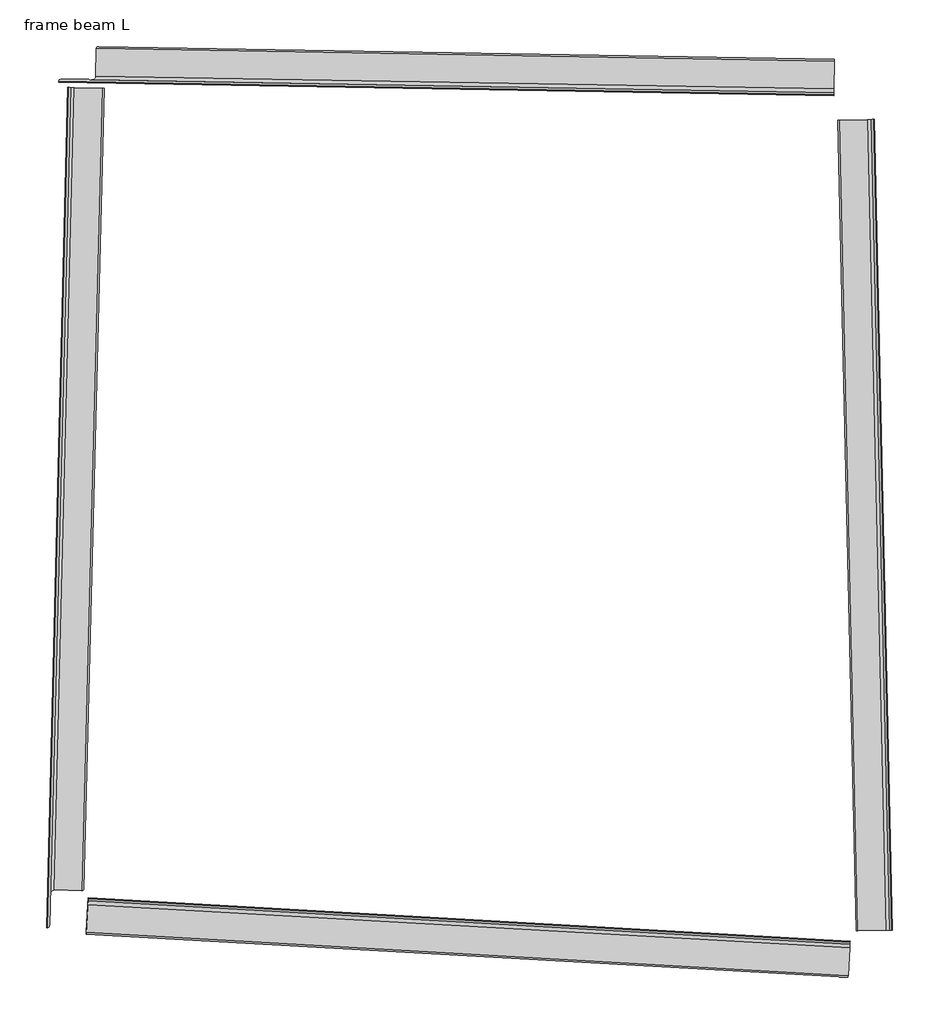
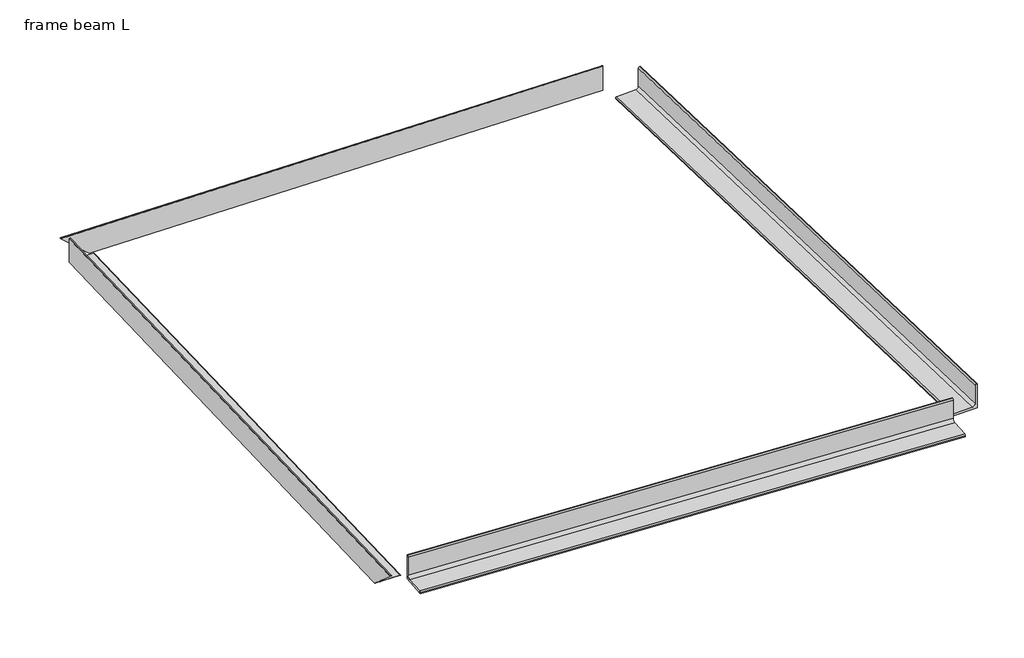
# One storey: 4 beams.
"""IFC4 building model written with IfcOpenShell, lengths in millimetres."""

from ifc_helpers import new_model, si_unit, frame, origin, place, context, project, spatial, polyline, circle_curve, ellipse_curve, transform, mapped, element, save
from ifc_brep_helpers import plane_surface, cylinder_surface, revolved_surface, advanced_brep
from components import l120x10_26b6b7ca, l120x10_cbca3082

model = new_model("IFC4")

# Units and contexts
model_context = context("Model", 3, world=origin())
ifc_project = project(units=[si_unit("LENGTHUNIT", "METRE", prefix="MILLI")], contexts=[model_context])

# Site, building, storey
site = spatial("IfcSite", under=ifc_project)
building = spatial("IfcBuilding", under=site)
storey = spatial("IfcBuildingStorey", under=building, Name="frame beam L", Elevation=5725.900799)

# Beams
placement = place(None, origin())
element("IfcBeam", 1, ObjectType="L ali uguali : L120x10", at=placement, inside=storey, context=model_context, shape_type="AdvancedBrep", body=[
    advanced_brep(
    [(2348.1678974, 2107.3671471, 5645.1164619), (2350.7639089, 2257.3446811, 5645.1164619), (2350.763753, 2257.3446838, 5649.1164619), (2350.6249873, 2249.3458874, 5657.1164619), (2348.6520187, 2135.3629615, 5657.1164619), (2348.3744873, 2119.3653687, 5673.1164619), (2348.3700453, 2119.3654456, 5787.1164618), (2348.2312797, 2111.3666491, 5795.1164618), (2348.1620527, 2107.3672482, 5795.1164618), (-680.4811256, 2159.7910485, 5644.9984152), (-677.7286427, 2309.7658742, 5644.9984213), (-691.1807518, 2301.9975229, 5656.9979023), (-693.2726388, 2188.0166554, 5656.9978977), (-711.3066503, 2172.3264154, 5672.9972056), (-837.7070954, 2174.5143231, 5786.992279), (-846.7975007, 2162.6698744, 5794.9919328), (-682.163746, 2309.8426429, 5648.9982484), (-846.7241012, 2166.6692031, 5794.991933)],
    [
        (0, 1),
        (1, 2),
        (2, 3, circle_curve(frame((2350.6252991, 2249.345882, 5649.1164619), z_axis=(0.9998502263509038, -0.01730674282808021, 3.897087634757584e-05), x_axis=(0.01730674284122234, 0.9998502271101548, 0.0)), 8.0)),
        (3, 4),
        (4, 5, circle_curve(frame((2348.6513952, 2135.3629723, 5673.1164619), z_axis=(-0.9998502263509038, 0.01730674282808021, -3.897087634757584e-05), x_axis=(0.01730674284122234, 0.9998502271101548, 0.0)), 16.0)),
        (5, 6),
        (6, 7, circle_curve(frame((2348.2315914, 2111.3666437, 5787.1164618), z_axis=(0.9998502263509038, -0.01730674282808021, 3.897087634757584e-05), x_axis=(0.01730674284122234, 0.9998502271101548, 0.0)), 8.0)),
        (7, 8),
        (8, 0),
        (0, 9),
        (9, 10),
        (10, 1),
        (3, 11),
        (11, 12),
        (12, 4),
        (12, 13, ellipse_curve(frame((-711.0130521, 2188.3237302, 5672.9972063), z_axis=(-0.6695582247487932, 0.012288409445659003, -0.7426579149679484), x_axis=(-0.7425579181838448, 0.012223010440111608, 0.6696703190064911)), 23.8913104, 16.0)),
        (13, 5),
        (13, 14),
        (14, 6),
        (8, 15),
        (15, 9),
        (10, 16),
        (16, 2),
        (16, 11, ellipse_curve(frame((-682.3105451, 2301.8439855, 5648.9982481), z_axis=(0.6695582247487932, -0.012288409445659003, 0.7426579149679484), x_axis=(0.7425579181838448, -0.012223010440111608, -0.6696703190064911)), 11.9456552, 8.0)),
        (14, 17, ellipse_curve(frame((-837.8538945, 2166.5156657, 5786.9922787), z_axis=(0.6695582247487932, -0.012288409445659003, 0.7426579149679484), x_axis=(0.7425579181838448, -0.012223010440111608, -0.6696703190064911)), 11.9456552, 8.0)),
        (17, 7),
        (17, 15),
    ],
    [
        plane_surface(frame((2348.8793299, 2148.5610042, 5686.3164619), z_axis=(0.9998502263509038, -0.01730674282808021, 3.897087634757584e-05), x_axis=(-3.896503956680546e-05, 6.744589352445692e-07, 0.9999999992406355))),
        plane_surface(frame((2348.1678974, 2107.3671471, 5645.1164619), z_axis=(3.8965039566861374e-05, -6.744589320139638e-07, -0.9999999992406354), x_axis=(-0.9998502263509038, 0.01730674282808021, -3.897087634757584e-05))),
        plane_surface(frame((2350.6249873, 2249.3458874, 5657.1164619), z_axis=(-3.8965039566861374e-05, 6.744589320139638e-07, 0.9999999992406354), x_axis=(-0.9998502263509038, 0.01730674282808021, -3.897087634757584e-05))),
        revolved_surface(polyline([(-728.4759419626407, 2204.6283978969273, 5672.99651479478), (2348.928303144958, 2151.3605759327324, 5673.116461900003)]), (2348.6513952, 2135.3629723, 5673.1164619), (-0.9998502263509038, 0.01730674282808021, -3.897087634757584e-05)),
        plane_surface(frame((2348.3744873, 2119.3653687, 5673.1164619), z_axis=(0.01730674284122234, 0.9998502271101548, 0.0), x_axis=(-0.9998502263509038, 0.01730674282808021, -3.897087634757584e-05))),
        plane_surface(frame((2348.1620527, 2107.3672482, 5795.1164618), z_axis=(-0.01730674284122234, -0.9998502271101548, 0.0), x_axis=(-0.9998502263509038, 0.01730674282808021, -3.897087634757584e-05))),
        plane_surface(frame((2350.7639089, 2257.3446811, 5645.1164619), z_axis=(0.01730674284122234, 0.9998502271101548, 0.0), x_axis=(-0.9998502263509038, 0.01730674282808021, -3.897087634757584e-05))),
        cylinder_surface(frame((2350.6252991, 2249.345882, 5649.1164619), z_axis=(0.9998502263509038, -0.01730674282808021, 3.897087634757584e-05), x_axis=(0.01730674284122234, 0.9998502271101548, 0.0)), 8.0),
        cylinder_surface(frame((2348.2315914, 2111.3666437, 5787.1164618), z_axis=(0.9998502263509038, -0.01730674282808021, 3.897087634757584e-05), x_axis=(0.01730674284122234, 0.9998502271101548, 0.0)), 8.0),
        plane_surface(frame((2348.2312797, 2111.3666491, 5795.1164618), z_axis=(-3.8965039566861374e-05, 6.744589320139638e-07, 0.9999999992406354), x_axis=(-0.9998502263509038, 0.01730674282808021, -3.897087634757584e-05))),
        plane_surface(frame((-846.0856862, 2203.7931151, 5795.0306289), z_axis=(-0.6695582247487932, 0.012288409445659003, -0.7426579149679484), x_axis=(0.742759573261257, 0.01107734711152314, -0.6694665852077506))),
    ],
    [
        (0, [[1, 2, 3, 4, 5, 6, 7, 8, 9]]),
        (1, [[-1, 10, 11, 12]]),
        (2, [[-4, 13, 14, 15]]),
        (3, [[-5, -15, 16, 17]]),
        (4, [[-6, -17, 18, 19]]),
        (5, [[-9, 20, 21, -10]]),
        (6, [[-2, -12, 22, 23]]),
        (7, [[-3, -23, 24, -13]]),
        (8, [[-7, -19, 25, 26]]),
        (9, [[-8, -26, 27, -20]]),
        (10, [[-21, -27, -25, -18, -16, -14, -24, -22, -11]]),
    ],
),
])
element("IfcBeam", 2, ObjectType="L ali uguali : L120x10", at=placement, inside=storey, context=model_context, shape_type="AdvancedBrep", body=[
    advanced_brep(
    [(-809.8435867, 2140.9882508, 5645.1008602), (-809.8371937, 2141.242201, 5795.1006451), (-805.8384606, 2141.1415366, 5795.1006451), (-797.8413353, 2140.9266638, 5787.1006565), (-797.8461939, 2140.7336617, 5673.10082), (-781.8519433, 2140.303916, 5657.100843), (-667.888049, 2137.4349807, 5657.100843), (-659.8909237, 2137.2201079, 5649.1008544), (-659.8910941, 2137.2133359, 5645.1008602), (-742.7604426, -1154.6397595, 5650.6775118), (-892.7195107, -1151.1260489, 5650.6779543), (-865.0679307, -1165.3188601, 5662.7008215), (-751.0990389, -1167.9892802, 5662.7004852), (-881.5179371, -1182.9932892, 5678.7314684), (-884.7553411, -1311.5940161, 5792.9494914), (-896.9792528, -1320.3375317, 5800.9648266), (-742.8740357, -1159.1520657, 5654.6851617), (-892.9803443, -1320.4312307, 5800.9648148)],
    [
        (0, 1),
        (1, 2),
        (2, 3, circle_curve(frame((-805.8388015, 2141.1279926, 5787.1006565), z_axis=(0.025166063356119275, 0.9996818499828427, -0.0016935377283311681), x_axis=(0.9996832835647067, -0.025166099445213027, 0.0)), 8.0)),
        (3, 4),
        (4, 5, circle_curve(frame((-781.8512614, 2140.3310041, 5673.10082), z_axis=(-0.025166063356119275, -0.9996818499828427, 0.0016935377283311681), x_axis=(0.9996832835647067, -0.025166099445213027, 0.0)), 16.0)),
        (5, 6),
        (6, 7, circle_curve(frame((-667.8883899, 2137.4214367, 5649.1008544), z_axis=(0.025166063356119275, 0.9996818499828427, -0.0016935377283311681), x_axis=(0.9996832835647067, -0.025166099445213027, 0.0)), 8.0)),
        (7, 8),
        (8, 0),
        (9, 10),
        (10, 0),
        (8, 9),
        (11, 12),
        (12, 6),
        (5, 11),
        (13, 11, ellipse_curve(frame((-865.5223032, -1183.368085, 5678.7314212), z_axis=(-0.015554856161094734, -0.6637600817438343, -0.7477837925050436), x_axis=(0.01983990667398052, 0.7475221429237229, -0.6639405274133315)), 24.1446034, 16.0)),
        (4, 13),
        (14, 13),
        (3, 14),
        (10, 15),
        (15, 1),
        (16, 9),
        (7, 16),
        (12, 16, ellipse_curve(frame((-750.8718527, -1158.9646678, 5654.6851853), z_axis=(0.015554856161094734, 0.6637600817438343, 0.7477837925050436), x_axis=(-0.01983990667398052, -0.7475221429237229, 0.6639405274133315)), 12.0723017, 8.0)),
        (17, 14, ellipse_curve(frame((-892.7531581, -1311.4066182, 5792.949515), z_axis=(0.015554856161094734, 0.6637600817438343, 0.7477837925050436), x_axis=(-0.01983990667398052, -0.7475221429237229, 0.6639405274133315)), 12.0723017, 8.0)),
        (2, 17),
        (15, 17),
    ],
    [
        plane_surface(frame((-768.6548794, 2140.0211592, 5686.3008011), z_axis=(0.025166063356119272, 0.9996818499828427, -0.001693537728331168), x_axis=(4.261973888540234e-05, 0.001693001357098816, 0.9999985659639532))),
        plane_surface(frame((-894.7413014, -1231.4384701, 5650.8140097), z_axis=(-4.261973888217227e-05, -0.0016930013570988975, -0.9999985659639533), x_axis=(0.025166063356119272, 0.9996818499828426, -0.001693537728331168))),
        plane_surface(frame((-752.7857637, -1234.9917402, 5662.8139925), z_axis=(4.261973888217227e-05, 0.0016930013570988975, 0.9999985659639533), x_axis=(0.025166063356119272, 0.9996818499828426, -0.001693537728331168))),
        revolved_surface(polyline([(-765.8563288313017, 2139.9283465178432, 5673.100819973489), (-849.9824255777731, -1201.8470768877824, 5678.762043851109)]), (-866.7489761, -1232.0957168, 5678.8139695), (0.02516606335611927, 0.9996818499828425, -0.0016935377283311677)),
        plane_surface(frame((-882.7439086, -1231.6930593, 5678.8139695), z_axis=(0.9996832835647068, -0.025166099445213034, 0.0), x_axis=(0.025166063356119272, 0.9996818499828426, -0.001693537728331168))),
        plane_surface(frame((-894.7349084, -1231.1845199, 5800.8137946), z_axis=(-0.9996832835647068, 0.025166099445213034, 0.0), x_axis=(0.025166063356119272, 0.9996818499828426, -0.001693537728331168))),
        plane_surface(frame((-744.7888089, -1235.213385, 5650.8140097), z_axis=(0.9996832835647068, -0.025166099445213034, 0.0), x_axis=(0.025166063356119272, 0.9996818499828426, -0.001693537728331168))),
        cylinder_surface(frame((-752.7861047, -1235.0052842, 5654.814004), z_axis=(-0.02516606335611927, -0.9996818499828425, 0.0016935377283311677), x_axis=(0.9996832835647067, -0.025166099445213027, 0.0)), 8.0),
        cylinder_surface(frame((-890.7365163, -1231.2987283, 5792.8138061), z_axis=(-0.02516606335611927, -0.9996818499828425, 0.0016935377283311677), x_axis=(0.9996832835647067, -0.025166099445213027, 0.0)), 8.0),
        plane_surface(frame((-890.7361753, -1231.2851843, 5800.8137946), z_axis=(4.261973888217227e-05, 0.0016930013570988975, 0.9999985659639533), x_axis=(0.025166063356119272, 0.9996818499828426, -0.001693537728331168))),
        plane_surface(frame((-851.4101687, -1151.9048872, 5650.5099925), z_axis=(-0.015554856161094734, -0.6637600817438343, -0.7477837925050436), x_axis=(0.9998790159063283, -0.010325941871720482, -0.011633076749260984))),
    ],
    [
        (0, [[1, 2, 3, 4, 5, 6, 7, 8, 9]]),
        (1, [[10, 11, -9, 12]]),
        (2, [[13, 14, -6, 15]]),
        (3, [[16, -15, -5, 17]]),
        (4, [[18, -17, -4, 19]]),
        (5, [[20, 21, -1, -11]]),
        (6, [[22, -12, -8, 23]]),
        (7, [[24, -23, -7, -14]]),
        (8, [[25, -19, -3, 26]]),
        (9, [[27, -26, -2, -21]]),
        (10, [[-10, -22, -24, -13, -16, -18, -25, -27, -20]]),
    ],
),
])
l120x10_shape = l120x10_26b6b7ca(model_context)
element("IfcBeam", 3, ObjectType="L ali uguali : L120x10", at=placement, inside=storey, context=model_context, shape_type="MappedRepresentation", body=[
    mapped(l120x10_shape, transform((2510.8847939, 360.6662134, 5687.1558177), x_axis=(0.022728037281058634, -0.9997415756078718, 0.0004672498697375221), y_axis=(0.9997416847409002, 0.02272803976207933, 0.0), z_axis=(-1.0619673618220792e-05, 0.0004671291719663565, 0.9999998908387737))),
])
l120x10_2_shape = l120x10_cbca3082(model_context)
element("IfcBeam", 4, ObjectType="L ali uguali : L120x10", at=placement, inside=storey, context=model_context, shape_type="MappedRepresentation", body=[
    mapped(l120x10_2_shape, transform((848.925209, -1328.7385229, 5690.0022235), x_axis=(0.9984016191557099, -0.056505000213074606, -0.001179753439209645), y_axis=(0.056505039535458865, 0.9984023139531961, 0.0), z_axis=(0.0011778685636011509, -6.666201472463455e-05, 0.9999993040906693))),
])

save(model, "model.ifc")
